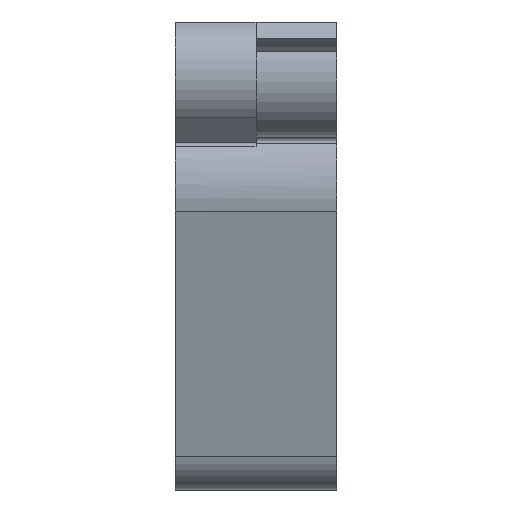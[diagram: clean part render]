
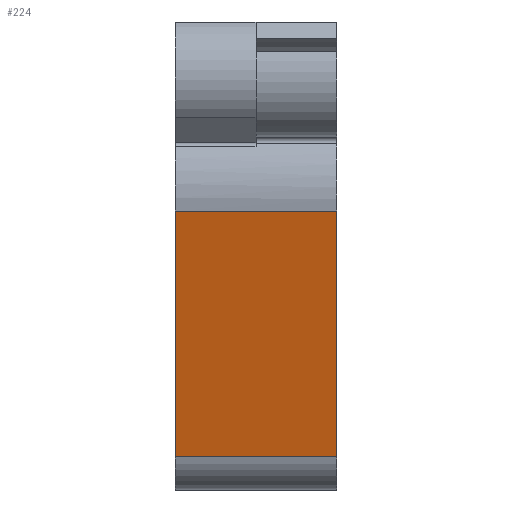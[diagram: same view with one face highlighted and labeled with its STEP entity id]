
A CAD part, left-side view. The second image highlights one B-rep face of the part: STEP entity #224.
In plain terms, the highlighted planar face has unit normal (-0.972, 0, -0.237).
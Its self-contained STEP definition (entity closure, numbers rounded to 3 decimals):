
#11 = ORIENTED_EDGE ( 'NONE', *, *, #964, .F. ) ;
#15 = VECTOR ( 'NONE', #1262, 1000. ) ;
#45 = CARTESIAN_POINT ( 'NONE',  ( -2.332, 0., -0.568 ) ) ;
#67 = DIRECTION ( 'NONE',  ( -0.237, 0., 0.972 ) ) ;
#92 = ORIENTED_EDGE ( 'NONE', *, *, #419, .F. ) ;
#190 = ORIENTED_EDGE ( 'NONE', *, *, #1207, .T. ) ;
#224 = ADVANCED_FACE ( 'NONE', ( #869 ), #467, .T. ) ;
#240 = DIRECTION ( 'NONE',  ( 0., -1., 0. ) ) ;
#261 = DIRECTION ( 'NONE',  ( 0.237, 0., -0.972 ) ) ;
#407 = CARTESIAN_POINT ( 'NONE',  ( 2.111, 8., -18.812 ) ) ;
#419 = EDGE_CURVE ( 'NONE', #1305, #952, #1146, .T. ) ;
#456 = CARTESIAN_POINT ( 'NONE',  ( -2.332, 8., -0.568 ) ) ;
#464 = VECTOR ( 'NONE', #240, 1000. ) ;
#467 = PLANE ( 'NONE',  #806 ) ;
#575 = CARTESIAN_POINT ( 'NONE',  ( -2.332, 8., -0.568 ) ) ;
#596 = DIRECTION ( 'NONE',  ( 0., -1., 0. ) ) ;
#628 = EDGE_LOOP ( 'NONE', ( #92, #11, #1249, #190 ) ) ;
#651 = CARTESIAN_POINT ( 'NONE',  ( -0.853, 8., -6.64 ) ) ;
#730 = VERTEX_POINT ( 'NONE', #798 ) ;
#783 = VECTOR ( 'NONE', #261, 1000. ) ;
#798 = CARTESIAN_POINT ( 'NONE',  ( -0.853, 8., -6.64 ) ) ;
#806 = AXIS2_PLACEMENT_3D ( 'NONE', #575, #974, #67 ) ;
#866 = LINE ( 'NONE', #456, #783 ) ;
#869 = FACE_OUTER_BOUND ( 'NONE', #628, .T. ) ;
#925 = CARTESIAN_POINT ( 'NONE',  ( -0.853, 0., -6.64 ) ) ;
#950 = CARTESIAN_POINT ( 'NONE',  ( 2.111, 0., -18.812 ) ) ;
#952 = VERTEX_POINT ( 'NONE', #950 ) ;
#964 = EDGE_CURVE ( 'NONE', #730, #1305, #1239, .T. ) ;
#974 = DIRECTION ( 'NONE',  ( -0.972, 0., -0.237 ) ) ;
#1032 = VERTEX_POINT ( 'NONE', #1271 ) ;
#1037 = EDGE_CURVE ( 'NONE', #730, #1032, #866, .T. ) ;
#1067 = VECTOR ( 'NONE', #596, 1000. ) ;
#1115 = LINE ( 'NONE', #407, #1067 ) ;
#1146 = LINE ( 'NONE', #45, #15 ) ;
#1207 = EDGE_CURVE ( 'NONE', #1032, #952, #1115, .T. ) ;
#1239 = LINE ( 'NONE', #651, #464 ) ;
#1249 = ORIENTED_EDGE ( 'NONE', *, *, #1037, .T. ) ;
#1262 = DIRECTION ( 'NONE',  ( 0.237, 0., -0.972 ) ) ;
#1271 = CARTESIAN_POINT ( 'NONE',  ( 2.111, 8., -18.812 ) ) ;
#1305 = VERTEX_POINT ( 'NONE', #925 ) ;
